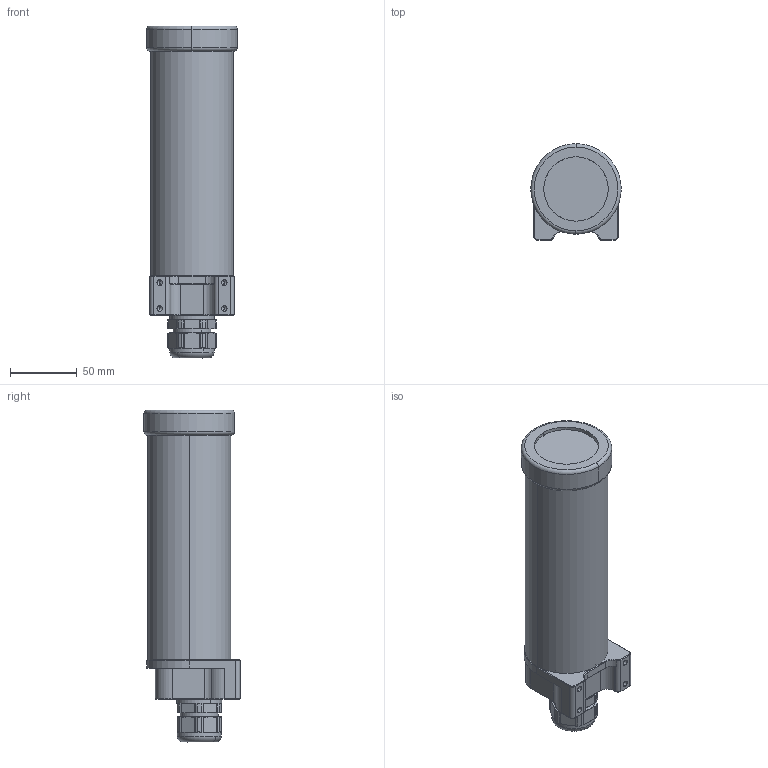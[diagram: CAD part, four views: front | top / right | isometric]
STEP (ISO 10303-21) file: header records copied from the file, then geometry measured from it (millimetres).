
FILE_DESCRIPTION (( 'STEP AP203' ), '1' );
FILE_NAME ('24C-DD.STEP', '2021-10-29T17:11:04', ( '' ), ( '' ), 'SwSTEP 2.0', 'SolidWorks 2021', '' );
FILE_SCHEMA (( 'CONFIG_CONTROL_DESIGN' ));
Length unit declared in the file: inch
Products named in the file (15): 500119; 91292A108_91292A108; 200717; 200428; PG21-S01; 200798; PG21-N03; 24C-DD; PG21-B04; 9452K141_Expanded; PG21-I01; 4452K541; 400119; PG21-04-01-01-03; 200317
Assembly tree (17 placements, depth 3):
  24C-DD
    200317
    200428
    200798
    200717
    400119
    500119
    PG21-04-01-01-03
      PG21-B04
      PG21-I01
      PG21-S01
      PG21-N03
    4452K541  x2
    9452K141_Expanded
    91292A108_91292A108  x3
Bounding box: 67.82 x 72.01 x 248.79 mm (x, y, z)
Volume: 210323.5 mm3; surface area: 142648.8 mm2
Topology: 17 solids, 17 shells, 849 faces, 2230 edges, 1423 vertices
Faces by surface type: cylinder 386, plane 238, cone 200, torus 13, bspline 12
Entity records: 25644 total; most frequent: CARTESIAN_POINT 8214, ORIENTED_EDGE 3378, DIRECTION 3253, EDGE_CURVE 1689, AXIS2_PLACEMENT_3D 1276, VERTEX_POINT 1076, EDGE_LOOP 713, LINE 701
